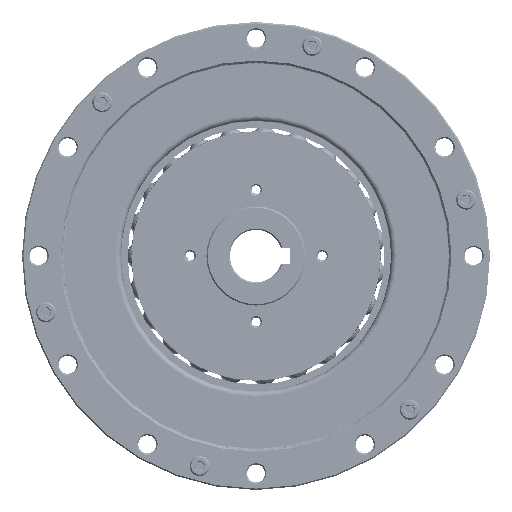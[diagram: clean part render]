
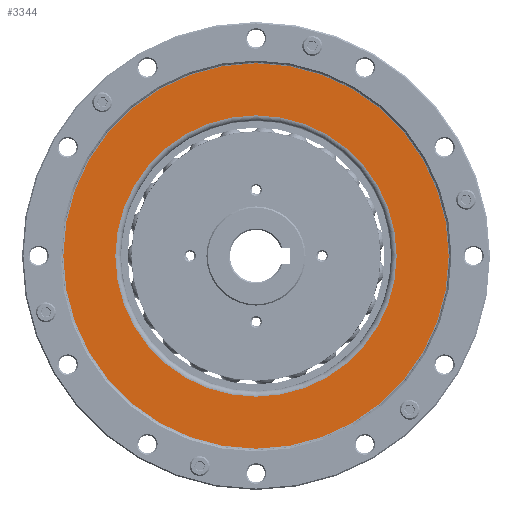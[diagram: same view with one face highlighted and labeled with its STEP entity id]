
A CAD part, left-side view. The second image highlights one B-rep face of the part: STEP entity #3344.
In plain terms, the highlighted planar face has unit normal (-1, 0, 0).
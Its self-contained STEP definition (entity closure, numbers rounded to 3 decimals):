
#3344=ADVANCED_FACE('',(#5934,#5935),#3676,.F.);
#3676=PLANE('',#15006);
#5934=FACE_BOUND('',#7119,.T.);
#5935=FACE_BOUND('',#7120,.T.);
#7119=EDGE_LOOP('',(#10327));
#7120=EDGE_LOOP('',(#10328));
#10327=ORIENTED_EDGE('',*,*,#13333,.F.);
#10328=ORIENTED_EDGE('',*,*,#13332,.T.);
#11709=VERTEX_POINT('',#133122);
#11710=VERTEX_POINT('',#133125);
#13332=EDGE_CURVE('',#11709,#11709,#13905,.T.);
#13333=EDGE_CURVE('',#11710,#11710,#13906,.T.);
#13905=CIRCLE('',#15003,70.);
#13906=CIRCLE('',#15005,51.085);
#15003=AXIS2_PLACEMENT_3D('',#133121,#17706,#17707);
#15005=AXIS2_PLACEMENT_3D('',#133124,#17710,#17711);
#15006=AXIS2_PLACEMENT_3D('',#133126,#17712,#17713);
#17706=DIRECTION('',(-1.,0.,0.));
#17707=DIRECTION('',(0.,0.,1.));
#17710=DIRECTION('',(-1.,0.,0.));
#17711=DIRECTION('',(0.,0.,1.));
#17712=DIRECTION('',(1.,0.,0.));
#17713=DIRECTION('',(0.,0.,-1.));
#133121=CARTESIAN_POINT('',(-47.9,0.,0.));
#133122=CARTESIAN_POINT('',(-47.9,0.,70.));
#133124=CARTESIAN_POINT('',(-47.9,0.,0.));
#133125=CARTESIAN_POINT('',(-47.9,0.,51.085));
#133126=CARTESIAN_POINT('',(-47.9,-70.,0.));
